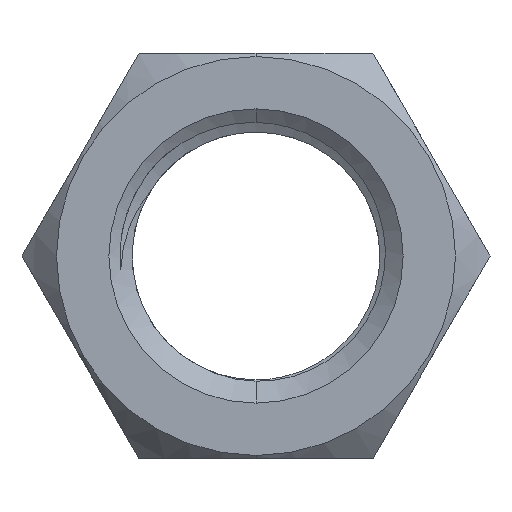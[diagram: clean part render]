
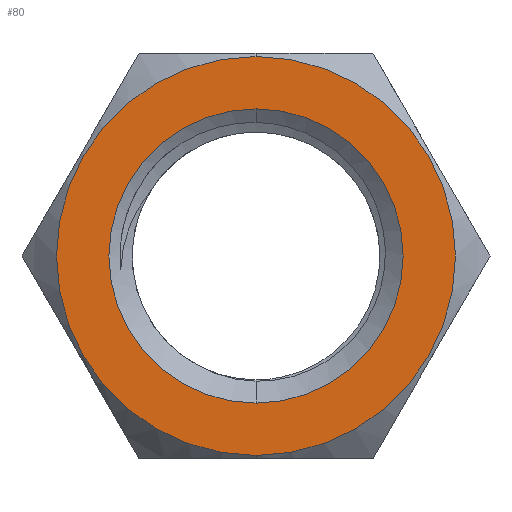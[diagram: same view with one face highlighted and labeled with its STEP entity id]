
A CAD part, front view. The second image highlights one B-rep face of the part: STEP entity #80.
In plain terms, the highlighted planar face has unit normal (0, -1, 0).
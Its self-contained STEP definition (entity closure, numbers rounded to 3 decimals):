
#80 = ADVANCED_FACE ( 'NONE', ( #206, #1729 ), #2718, .F. ) ;
#114 = VERTEX_POINT ( 'NONE', #943 ) ;
#168 = CIRCLE ( 'NONE', #785, 9.8 ) ;
#206 = FACE_BOUND ( 'NONE', #455, .T. ) ;
#213 = ORIENTED_EDGE ( 'NONE', *, *, #578, .T. ) ;
#342 = AXIS2_PLACEMENT_3D ( 'NONE', #2261, #1776, #570 ) ;
#380 = DIRECTION ( 'NONE',  ( 0., -1., 0. ) ) ;
#396 = CIRCLE ( 'NONE', #342, 13.288 ) ;
#421 = ORIENTED_EDGE ( 'NONE', *, *, #1690, .T. ) ;
#455 = EDGE_LOOP ( 'NONE', ( #2413, #2331 ) ) ;
#570 = DIRECTION ( 'NONE',  ( 0., 0., -1. ) ) ;
#575 = CARTESIAN_POINT ( 'NONE',  ( 0., -7.5, 0. ) ) ;
#578 = EDGE_CURVE ( 'NONE', #1003, #1387, #396, .T. ) ;
#691 = DIRECTION ( 'NONE',  ( 0., 1., 0. ) ) ;
#692 = AXIS2_PLACEMENT_3D ( 'NONE', #575, #380, #3059 ) ;
#785 = AXIS2_PLACEMENT_3D ( 'NONE', #1545, #2518, #1299 ) ;
#801 = CARTESIAN_POINT ( 'NONE',  ( 0., -7.5, 9.8 ) ) ;
#828 = CARTESIAN_POINT ( 'NONE',  ( 0., -7.5, -13.288 ) ) ;
#856 = EDGE_LOOP ( 'NONE', ( #213, #421 ) ) ;
#943 = CARTESIAN_POINT ( 'NONE',  ( 0., -7.5, -9.8 ) ) ;
#1003 = VERTEX_POINT ( 'NONE', #1471 ) ;
#1299 = DIRECTION ( 'NONE',  ( 0., 0., -1. ) ) ;
#1387 = VERTEX_POINT ( 'NONE', #828 ) ;
#1404 = VERTEX_POINT ( 'NONE', #801 ) ;
#1471 = CARTESIAN_POINT ( 'NONE',  ( 0., -7.5, 13.288 ) ) ;
#1494 = DIRECTION ( 'NONE',  ( 0., 0., -1. ) ) ;
#1545 = CARTESIAN_POINT ( 'NONE',  ( 0., -7.5, 0. ) ) ;
#1658 = DIRECTION ( 'NONE',  ( 0., 0., 1. ) ) ;
#1690 = EDGE_CURVE ( 'NONE', #1387, #1003, #2802, .T. ) ;
#1724 = AXIS2_PLACEMENT_3D ( 'NONE', #2899, #691, #1658 ) ;
#1729 = FACE_OUTER_BOUND ( 'NONE', #856, .T. ) ;
#1776 = DIRECTION ( 'NONE',  ( 0., -1., 0. ) ) ;
#2208 = CARTESIAN_POINT ( 'NONE',  ( 0., -7.5, 0. ) ) ;
#2261 = CARTESIAN_POINT ( 'NONE',  ( 0., -7.5, 0. ) ) ;
#2286 = EDGE_CURVE ( 'NONE', #1404, #114, #168, .T. ) ;
#2331 = ORIENTED_EDGE ( 'NONE', *, *, #2505, .F. ) ;
#2413 = ORIENTED_EDGE ( 'NONE', *, *, #2286, .F. ) ;
#2419 = DIRECTION ( 'NONE',  ( 0., -1., 0. ) ) ;
#2505 = EDGE_CURVE ( 'NONE', #114, #1404, #2519, .T. ) ;
#2518 = DIRECTION ( 'NONE',  ( 0., -1., 0. ) ) ;
#2519 = CIRCLE ( 'NONE', #3062, 9.8 ) ;
#2718 = PLANE ( 'NONE',  #1724 ) ;
#2802 = CIRCLE ( 'NONE', #692, 13.288 ) ;
#2899 = CARTESIAN_POINT ( 'NONE',  ( 0., -7.5, 0. ) ) ;
#3059 = DIRECTION ( 'NONE',  ( 0., 0., -1. ) ) ;
#3062 = AXIS2_PLACEMENT_3D ( 'NONE', #2208, #2419, #1494 ) ;
